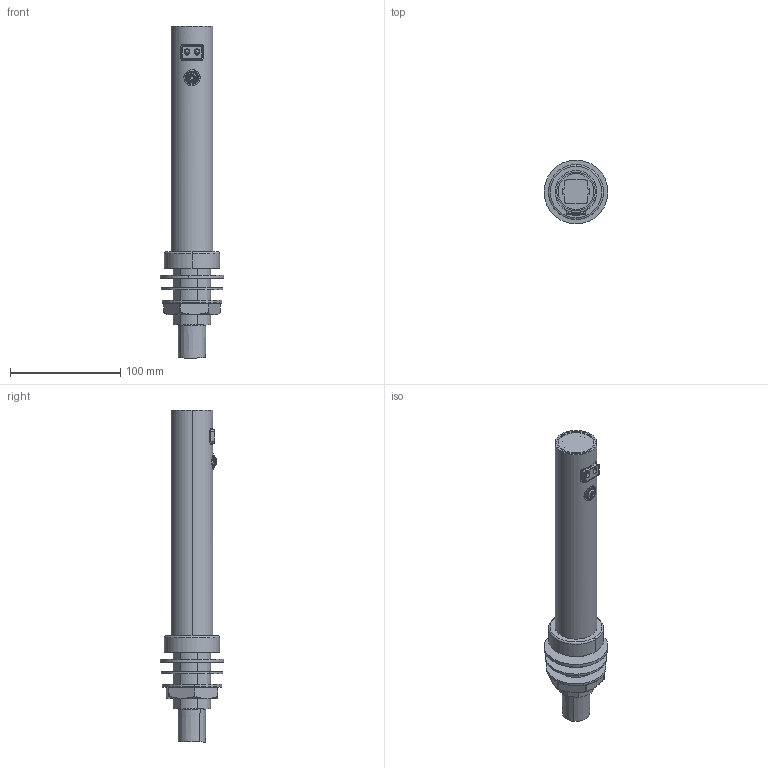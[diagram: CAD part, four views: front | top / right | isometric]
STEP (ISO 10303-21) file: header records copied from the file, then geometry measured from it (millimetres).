
FILE_DESCRIPTION (( 'STEP AP214' ), '1' );
FILE_NAME ('EcoTap SD_出牆式組合件.STEP', '2019-03-15T08:57:49', ( 'Mask' ), ( '' ), 'SwSTEP 2.0', 'SolidWorks 2011', '' );
FILE_SCHEMA (( 'AUTOMOTIVE_DESIGN' ));
Length unit declared in the file: millimetre
Products named in the file (19): A0130-0029_HK-CSDX3_轉角接頭; A0130-0037_HK-CSDX3_皂液出皂口; C0334-0006 EcoTap_出風管導光塞頭飾板_Default; G0234-0003 EcoTap墊片; G0234-0002 EcoTap_出風龍頭墊片; G0130-0019 EcoTap SD_出皂口迫緊_Default; F0330-0007 EcoTap SD_感應基板組_Default; F0230-0004 EcoTap SD_LED基板_Default; C0334-0005 EcoTap_華司; A0134-0006 EcoTap_出風管導光塞頭_Default; A0134-0005 EcoTap_出風管座螺帽_Default; A0130-0060 EcoTap SD_出口固定上蓋; A0130-0061 EcoTap SD_感應器及出皂口座_A1; A0134-0004 EcoTap_出風管座; C0130-0011 EcoTap SD_鲤Αぃ葵砰; 牆面式EcoTap出風管飾板_Default; 牆面式EcoTap出風管固定片; Soap牆面式出皂管_38D-220-A2_Default; EcoTap SD_出牆式組合件
Assembly tree (18 placements, depth 3):
  EcoTap SD_出牆式組合件
    A0130-0061 EcoTap SD_感應器及出皂口座_A1
    A0130-0060 EcoTap SD_出口固定上蓋
    C0334-0005 EcoTap_華司
    A0134-0004 EcoTap_出風管座
    A0134-0006 EcoTap_出風管導光塞頭_Default
    G0130-0019 EcoTap SD_出皂口迫緊_Default
    A0134-0005 EcoTap_出風管座螺帽_Default
    G0234-0003 EcoTap墊片
    F0230-0004 EcoTap SD_LED基板_Default
    C0334-0006 EcoTap_出風管導光塞頭飾板_Default
    A0130-0029_HK-CSDX3_轉角接頭
    G0234-0002 EcoTap_出風龍頭墊片
    A0130-0037_HK-CSDX3_皂液出皂口
    C0130-0011 EcoTap SD_鲤Αぃ葵砰
      牆面式EcoTap出風管固定片
      牆面式EcoTap出風管飾板_Default
      Soap牆面式出皂管_38D-220-A2_Default
    F0330-0007 EcoTap SD_感應基板組_Default
Bounding box: 57.84 x 57.84 x 301.2 mm (x, y, z)
Volume: 146255.6 mm3; surface area: 122462.7 mm2
Topology: 17 solids, 17 shells, 1253 faces, 3131 edges, 1994 vertices
Faces by surface type: plane 559, cylinder 262, cone 185, bspline 129, torus 116, sphere 2
Entity records: 47060 total; most frequent: CARTESIAN_POINT 17769, ORIENTED_EDGE 6250, DIRECTION 5566, EDGE_CURVE 3125, AXIS2_PLACEMENT_3D 2057, VERTEX_POINT 1990, VECTOR 1452, LINE 1452
